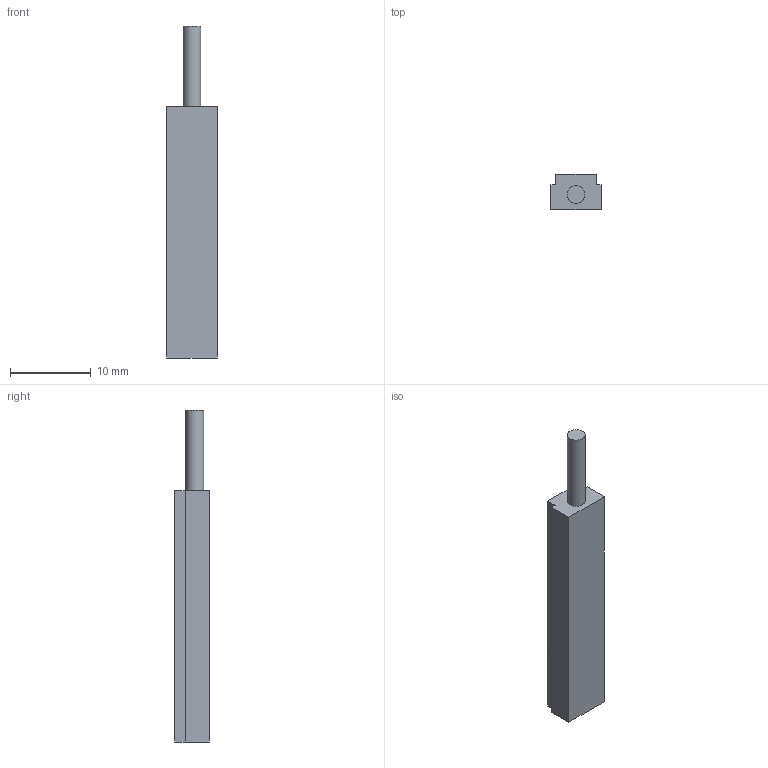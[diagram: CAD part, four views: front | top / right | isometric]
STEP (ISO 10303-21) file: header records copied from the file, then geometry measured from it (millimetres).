
FILE_DESCRIPTION( ( 'Unknown' ), '1' );
FILE_NAME( '//baumernet.org/ch01apps/SolidEdge/Models/Dokumentationen/Magnetoresitiv/Vereinfachte Modelle/Neutralformate/sl4n225-g.stp', 'Unknown', ( 'Unknown' ), ( 'Unknown' ), 'PSStep 10.0', 'Unknown', ' ' );
FILE_SCHEMA( ( 'AUTOMOTIVE_DESIGN { 1 0 10303 214 1 1 1 1 }' ) );
Length unit declared in the file: millimetre
Products named in the file (1): sl4n225-g
Bounding box: 6.2 x 4.3 x 41 mm (x, y, z)
Volume: 814.5 mm3; surface area: 774.3 mm2
Topology: 1 solids, 1 shells, 18 faces, 42 edges, 28 vertices
Faces by surface type: plane 16, cylinder 2
Full cylindrical faces by diameter (mm): 2.2 x1, 2.5 x1
Entity records: 654 total; most frequent: CARTESIAN_POINT 85, DIRECTION 84, ORIENTED_EDGE 78, EDGE_CURVE 39, LINE 32, VECTOR 32, VERTEX_POINT 27, AXIS2_PLACEMENT_3D 26
